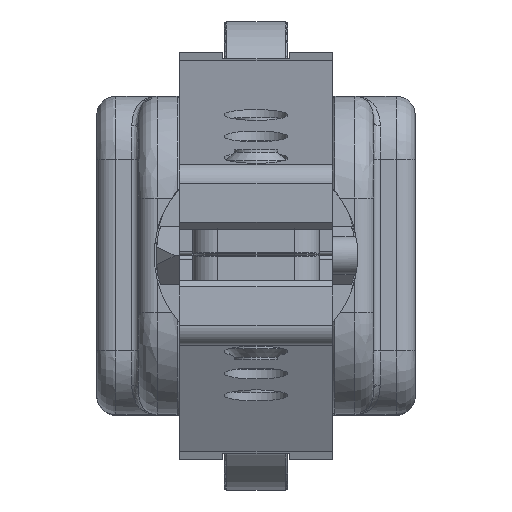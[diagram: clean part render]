
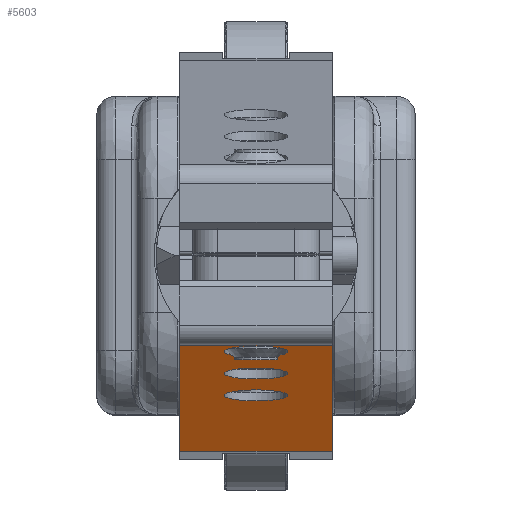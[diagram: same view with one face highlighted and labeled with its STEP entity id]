
A CAD part, top view. The second image highlights one B-rep face of the part: STEP entity #5603.
In plain terms, the highlighted planar face has unit normal (0, -0.986, 0.168).
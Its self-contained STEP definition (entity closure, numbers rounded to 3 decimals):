
#38=ELLIPSE('',#11613,2.536,2.5);
#39=ELLIPSE('',#11615,2.536,2.5);
#40=ELLIPSE('',#11617,2.536,2.5);
#3816=LINE('',#16741,#4291);
#3817=LINE('',#16743,#4292);
#3818=LINE('',#16745,#4293);
#3819=LINE('',#16747,#4294);
#4291=VECTOR('',#13678,1.);
#4292=VECTOR('',#13681,1.);
#4293=VECTOR('',#13682,1.);
#4294=VECTOR('',#13683,1.);
#5139=FACE_BOUND('',#6738,.T.);
#5140=FACE_BOUND('',#6739,.T.);
#5141=FACE_BOUND('',#6740,.T.);
#5142=FACE_BOUND('',#6741,.T.);
#5603=ADVANCED_FACE('',(#5139,#5140,#5141,#5142),#5847,.F.);
#5847=PLANE('',#11694);
#6738=EDGE_LOOP('',(#8343));
#6739=EDGE_LOOP('',(#8344));
#6740=EDGE_LOOP('',(#8345,#8346,#8347,#8348));
#6741=EDGE_LOOP('',(#8349));
#8343=ORIENTED_EDGE('',*,*,#10256,.F.);
#8344=ORIENTED_EDGE('',*,*,#10255,.F.);
#8345=ORIENTED_EDGE('',*,*,#10366,.F.);
#8346=ORIENTED_EDGE('',*,*,#10367,.F.);
#8347=ORIENTED_EDGE('',*,*,#10368,.F.);
#8348=ORIENTED_EDGE('',*,*,#10369,.F.);
#8349=ORIENTED_EDGE('',*,*,#10254,.F.);
#9350=VERTEX_POINT('',#16498);
#9351=VERTEX_POINT('',#16501);
#9352=VERTEX_POINT('',#16504);
#9438=VERTEX_POINT('',#16738);
#9439=VERTEX_POINT('',#16740);
#9440=VERTEX_POINT('',#16744);
#9441=VERTEX_POINT('',#16746);
#10254=EDGE_CURVE('',#9350,#9350,#38,.T.);
#10255=EDGE_CURVE('',#9351,#9351,#39,.T.);
#10256=EDGE_CURVE('',#9352,#9352,#40,.T.);
#10366=EDGE_CURVE('',#9439,#9438,#3816,.T.);
#10367=EDGE_CURVE('',#9440,#9439,#3817,.T.);
#10368=EDGE_CURVE('',#9441,#9440,#3818,.T.);
#10369=EDGE_CURVE('',#9438,#9441,#3819,.T.);
#11613=AXIS2_PLACEMENT_3D('',#16497,#13444,#13445);
#11615=AXIS2_PLACEMENT_3D('',#16500,#13448,#13449);
#11617=AXIS2_PLACEMENT_3D('',#16503,#13452,#13453);
#11694=AXIS2_PLACEMENT_3D('',#16748,#13684,#13685);
#13444=DIRECTION('',(0.,-0.986,0.168));
#13445=DIRECTION('',(0.,0.168,0.986));
#13448=DIRECTION('',(0.,-0.986,0.168));
#13449=DIRECTION('',(0.,0.168,0.986));
#13452=DIRECTION('',(0.,-0.986,0.168));
#13453=DIRECTION('',(0.,0.168,0.986));
#13678=DIRECTION('',(1.,0.,0.));
#13681=DIRECTION('',(0.,0.168,0.986));
#13682=DIRECTION('',(-1.,0.,0.));
#13683=DIRECTION('',(0.,-0.168,-0.986));
#13684=DIRECTION('',(0.,0.986,-0.168));
#13685=DIRECTION('',(0.,-0.168,-0.986));
#16497=CARTESIAN_POINT('',(-0.142,-8.014,138.281));
#16498=CARTESIAN_POINT('',(-0.142,-7.588,140.781));
#16500=CARTESIAN_POINT('',(-0.142,-9.717,128.281));
#16501=CARTESIAN_POINT('',(-0.142,-9.291,130.781));
#16503=CARTESIAN_POINT('',(-0.142,-6.311,148.281));
#16504=CARTESIAN_POINT('',(-0.142,-5.885,150.781));
#16738=CARTESIAN_POINT('',(5.858,-5.812,151.21));
#16740=CARTESIAN_POINT('',(-6.142,-5.812,151.21));
#16741=CARTESIAN_POINT('',(-6.142,-5.812,151.21));
#16743=CARTESIAN_POINT('',(-6.142,-14.043,102.878));
#16744=CARTESIAN_POINT('',(-6.142,-14.043,102.878));
#16745=CARTESIAN_POINT('',(-6.142,-14.043,102.878));
#16746=CARTESIAN_POINT('',(5.858,-14.043,102.878));
#16747=CARTESIAN_POINT('',(5.858,-5.588,152.522));
#16748=CARTESIAN_POINT('',(-6.142,-5.588,152.522));
